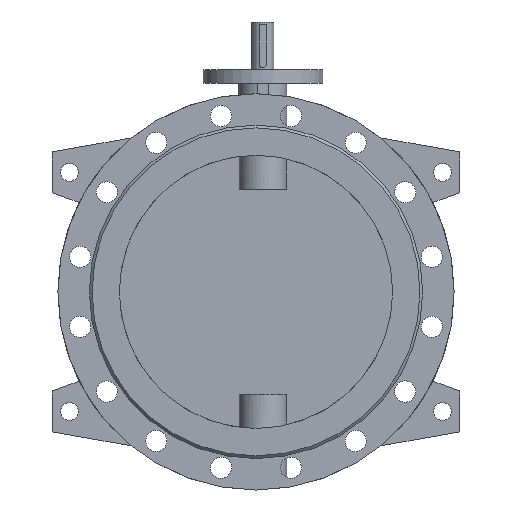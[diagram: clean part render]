
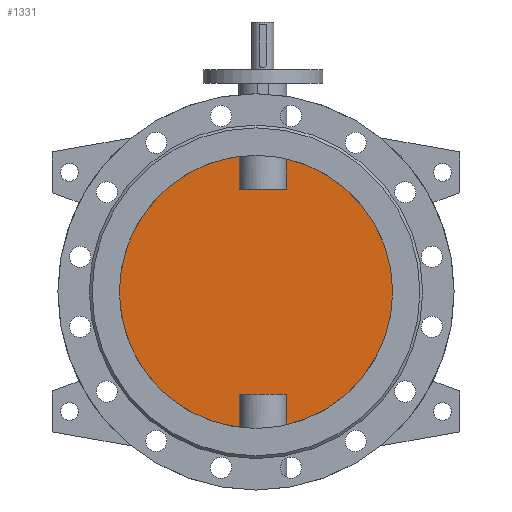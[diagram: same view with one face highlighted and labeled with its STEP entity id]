
A CAD part, front view. The second image highlights one B-rep face of the part: STEP entity #1331.
In plain terms, the highlighted planar face has unit normal (0, -1, 0).
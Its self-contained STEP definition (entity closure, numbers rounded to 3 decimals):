
#1331=ADVANCED_FACE('',(#2781),#2783,.F.);
#2781=FACE_BOUND('',#2782,.T.);
#2782=EDGE_LOOP('',(#3577,#3578,#3579,#3580,#3581,#3582,#3583,#3584));
#2783=PLANE('',#2784);
#2784=AXIS2_PLACEMENT_3D('',#2785,#2786,#2787);
#2785=CARTESIAN_POINT('',(0.,-5.,0.));
#2786=DIRECTION('',(0.,1.,0.));
#2787=DIRECTION('',(1.,0.,0.));
#3577=ORIENTED_EDGE('',*,*,#3975,.T.);
#3578=ORIENTED_EDGE('',*,*,#3991,.T.);
#3579=ORIENTED_EDGE('',*,*,#3992,.T.);
#3580=ORIENTED_EDGE('',*,*,#3993,.T.);
#3581=ORIENTED_EDGE('',*,*,#3977,.T.);
#3582=ORIENTED_EDGE('',*,*,#3994,.T.);
#3583=ORIENTED_EDGE('',*,*,#3995,.T.);
#3584=ORIENTED_EDGE('',*,*,#3996,.T.);
#3975=EDGE_CURVE('',#4607,#4608,#4609,.F.);
#3977=EDGE_CURVE('',#4612,#4610,#4613,.F.);
#3991=EDGE_CURVE('',#4608,#4639,#4640,.T.);
#3992=EDGE_CURVE('',#4639,#4641,#4642,.F.);
#3993=EDGE_CURVE('',#4641,#4612,#4643,.F.);
#3994=EDGE_CURVE('',#4610,#4644,#4645,.F.);
#3995=EDGE_CURVE('',#4644,#4646,#4647,.F.);
#3996=EDGE_CURVE('',#4646,#4607,#4648,.T.);
#4607=VERTEX_POINT('',#6742);
#4608=VERTEX_POINT('',#6743);
#4609=CIRCLE('',#6744,200.);
#4610=VERTEX_POINT('',#6748);
#4612=VERTEX_POINT('',#6811);
#4613=CIRCLE('',#6812,200.);
#4639=VERTEX_POINT('',#7213);
#4640=LINE('',#7214,#7215);
#4641=VERTEX_POINT('',#7217);
#4642=LINE('',#7218,#7219);
#4643=LINE('',#7221,#7222);
#4644=VERTEX_POINT('',#7224);
#4645=LINE('',#7225,#7226);
#4646=VERTEX_POINT('',#7228);
#4647=LINE('',#7229,#7230);
#4648=LINE('',#7232,#7233);
#6742=CARTESIAN_POINT('',(44.641,-5.,-194.954));
#6743=CARTESIAN_POINT('',(44.641,-5.,194.954));
#6744=AXIS2_PLACEMENT_3D('',#6745,#6746,#6747);
#6745=CARTESIAN_POINT('',(0.,-5.,0.));
#6746=DIRECTION('',(0.,1.,0.));
#6747=DIRECTION('',(0.223,0.,0.975));
#6748=CARTESIAN_POINT('',(-24.641,-5.,-198.476));
#6811=CARTESIAN_POINT('',(-24.641,-5.,198.476));
#6812=AXIS2_PLACEMENT_3D('',#6813,#6814,#6815);
#6813=CARTESIAN_POINT('',(0.,-5.,0.));
#6814=DIRECTION('',(0.,1.,0.));
#6815=DIRECTION('',(-0.123,0.,-0.992));
#7213=CARTESIAN_POINT('',(44.641,-5.,150.));
#7214=CARTESIAN_POINT('',(44.641,-5.,194.954));
#7215=VECTOR('',#7216,1.);
#7216=DIRECTION('',(0.,0.,-1.));
#7217=CARTESIAN_POINT('',(-24.641,-5.,150.));
#7218=CARTESIAN_POINT('',(-24.641,-5.,150.));
#7219=VECTOR('',#7220,1.);
#7220=DIRECTION('',(1.,0.,0.));
#7221=CARTESIAN_POINT('',(-24.641,-5.,198.476));
#7222=VECTOR('',#7223,1.);
#7223=DIRECTION('',(0.,0.,-1.));
#7224=CARTESIAN_POINT('',(-24.641,-5.,-150.));
#7225=CARTESIAN_POINT('',(-24.641,-5.,-150.));
#7226=VECTOR('',#7227,1.);
#7227=DIRECTION('',(0.,0.,-1.));
#7228=CARTESIAN_POINT('',(44.641,-5.,-150.));
#7229=CARTESIAN_POINT('',(44.641,-5.,-150.));
#7230=VECTOR('',#7231,1.);
#7231=DIRECTION('',(-1.,0.,0.));
#7232=CARTESIAN_POINT('',(44.641,-5.,-150.));
#7233=VECTOR('',#7234,1.);
#7234=DIRECTION('',(0.,0.,-1.));
